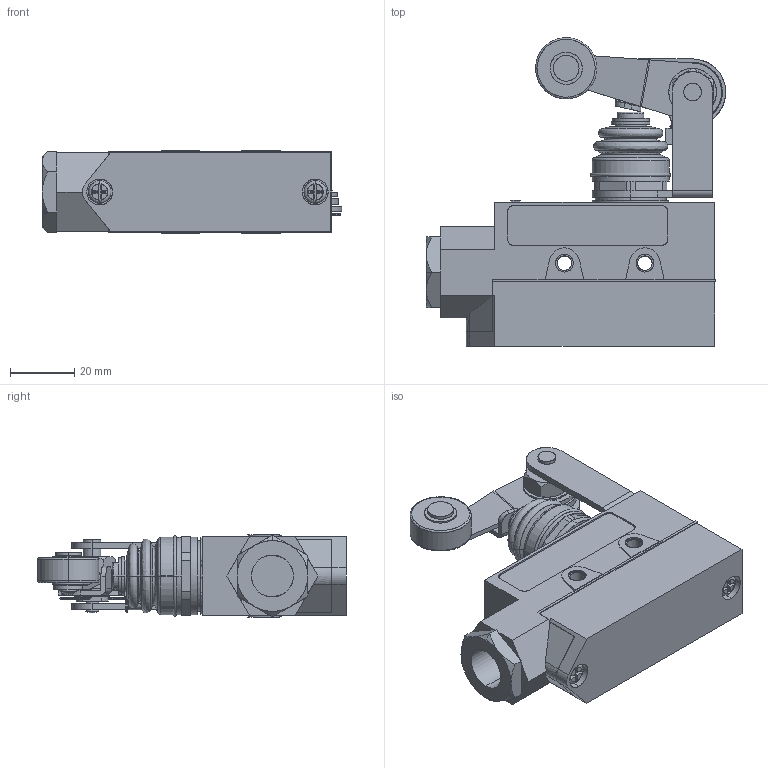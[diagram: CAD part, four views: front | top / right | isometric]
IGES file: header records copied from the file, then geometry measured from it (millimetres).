
Start section: SolidWorks IGES file using analytic representation for surfaces
Global section: file name: D:\X - Arquivos\PROEX\Empresas\P11 - METALTEX\01 - Produtos\IGES\6ª remessa\5ª etapa\TZ-6104.IGS; native system: SolidWorks 2012; preprocessor: SolidWorks 2012; author: Usuario; date: 190327.095703; units: millimetre
Bounding box: 93.09 x 95.9 x 25.5 mm (x, y, z)
Surface area: 26130.2 mm2 (no closed solid volume)
Topology: 0 solids, 0 shells, 507 faces, 5503 edges, 5501 vertices
Faces by surface type: bspline 344, revolution 163
